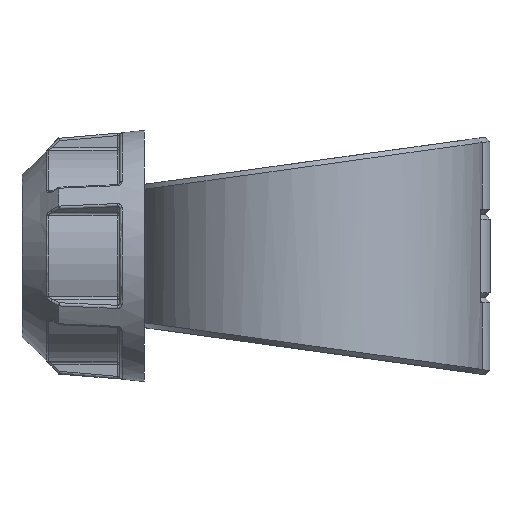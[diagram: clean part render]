
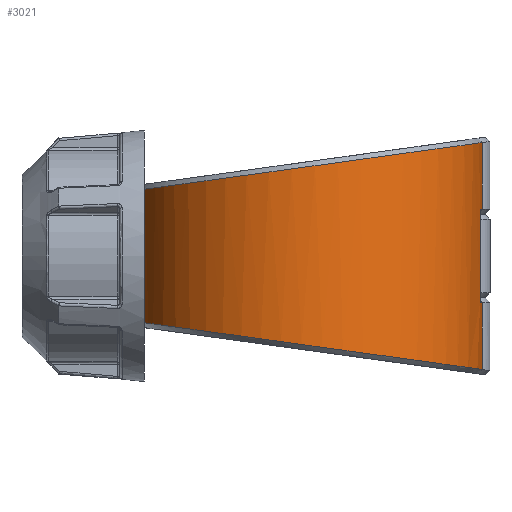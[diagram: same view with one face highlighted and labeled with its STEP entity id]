
A CAD part, left-side view. The second image highlights one B-rep face of the part: STEP entity #3021.
In plain terms, the highlighted cylindrical face has radius 70.5 mm (diameter 141 mm), a partial arc.
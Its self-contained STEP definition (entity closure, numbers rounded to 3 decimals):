
#212=FACE_OUTER_BOUND('',#416,.T.);
#416=EDGE_LOOP('',(#2055,#2056,#2057,#2058,#2059,#2060,#2061,#2062,#2063,
#2064,#2065,#2066));
#623=CIRCLE('',#3251,70.5);
#626=CIRCLE('',#3256,70.5);
#805=B_SPLINE_CURVE_WITH_KNOTS('',3,(#4518,#4519,#4520,#4521),
 .UNSPECIFIED.,.F.,.F.,(4,4),(-0.002,0.),.UNSPECIFIED.);
#806=B_SPLINE_CURVE_WITH_KNOTS('',3,(#4523,#4524,#4525,#4526),
 .UNSPECIFIED.,.F.,.F.,(4,4),(-3.043,-3.043),
 .UNSPECIFIED.);
#807=B_SPLINE_CURVE_WITH_KNOTS('',3,(#4527,#4528,#4529,#4530,#4531,#4532,
#4533,#4534,#4535,#4536),.UNSPECIFIED.,.F.,.F.,(4,1,1,1,1,1,1,4),(0.316,
0.619,1.025,1.431,1.837,2.243,
2.65,3.043),.UNSPECIFIED.);
#808=B_SPLINE_CURVE_WITH_KNOTS('',3,(#4538,#4539,#4540,#4541,#4542,#4543,
#4544,#4545,#4546,#4547),.UNSPECIFIED.,.F.,.F.,(4,1,1,1,1,1,1,4),(-3.043,
-2.65,-2.243,-1.837,-1.431,
-1.025,-0.619,-0.316),.UNSPECIFIED.);
#809=B_SPLINE_CURVE_WITH_KNOTS('',3,(#4549,#4550,#4551,#4552),
 .UNSPECIFIED.,.F.,.F.,(4,4),(3.043,3.043),
 .UNSPECIFIED.);
#810=B_SPLINE_CURVE_WITH_KNOTS('',3,(#4554,#4555,#4556,#4557),
 .UNSPECIFIED.,.F.,.F.,(4,4),(-0.397,-0.395),
 .UNSPECIFIED.);
#972=LINE('',#4394,#1093);
#979=LINE('',#4452,#1100);
#985=LINE('',#4516,#1106);
#986=LINE('',#4558,#1107);
#1093=VECTOR('',#3575,10.);
#1100=VECTOR('',#3592,10.);
#1106=VECTOR('',#3638,10.);
#1107=VECTOR('',#3639,10.);
#1216=VERTEX_POINT('',#4376);
#1217=VERTEX_POINT('',#4393);
#1229=VERTEX_POINT('',#4446);
#1230=VERTEX_POINT('',#4451);
#1236=VERTEX_POINT('',#4472);
#1239=VERTEX_POINT('',#4493);
#1243=VERTEX_POINT('',#4515);
#1244=VERTEX_POINT('',#4517);
#1245=VERTEX_POINT('',#4522);
#1246=VERTEX_POINT('',#4537);
#1247=VERTEX_POINT('',#4548);
#1248=VERTEX_POINT('',#4553);
#1510=EDGE_CURVE('',#1216,#1217,#972,.T.);
#1524=EDGE_CURVE('',#1229,#1230,#979,.T.);
#1537=EDGE_CURVE('',#1236,#1229,#623,.T.);
#1542=EDGE_CURVE('',#1230,#1239,#626,.T.);
#1548=EDGE_CURVE('',#1243,#1236,#985,.T.);
#1549=EDGE_CURVE('',#1244,#1243,#805,.T.);
#1550=EDGE_CURVE('',#1244,#1245,#806,.T.);
#1551=EDGE_CURVE('',#1217,#1245,#807,.T.);
#1552=EDGE_CURVE('',#1246,#1216,#808,.T.);
#1553=EDGE_CURVE('',#1246,#1247,#809,.T.);
#1554=EDGE_CURVE('',#1248,#1247,#810,.T.);
#1555=EDGE_CURVE('',#1239,#1248,#986,.T.);
#2055=ORIENTED_EDGE('',*,*,#1542,.F.);
#2056=ORIENTED_EDGE('',*,*,#1524,.F.);
#2057=ORIENTED_EDGE('',*,*,#1537,.F.);
#2058=ORIENTED_EDGE('',*,*,#1548,.F.);
#2059=ORIENTED_EDGE('',*,*,#1549,.F.);
#2060=ORIENTED_EDGE('',*,*,#1550,.T.);
#2061=ORIENTED_EDGE('',*,*,#1551,.F.);
#2062=ORIENTED_EDGE('',*,*,#1510,.F.);
#2063=ORIENTED_EDGE('',*,*,#1552,.F.);
#2064=ORIENTED_EDGE('',*,*,#1553,.T.);
#2065=ORIENTED_EDGE('',*,*,#1554,.F.);
#2066=ORIENTED_EDGE('',*,*,#1555,.F.);
#2962=CYLINDRICAL_SURFACE('',#3261,70.5);
#3021=ADVANCED_FACE('',(#212),#2962,.T.);
#3251=AXIS2_PLACEMENT_3D('',#4488,#3614,#3615);
#3256=AXIS2_PLACEMENT_3D('',#4502,#3624,#3625);
#3261=AXIS2_PLACEMENT_3D('',#4514,#3636,#3637);
#3575=DIRECTION('',(0.,0.,1.));
#3592=DIRECTION('',(0.,0.,-1.));
#3614=DIRECTION('center_axis',(0.,0.,-1.));
#3615=DIRECTION('ref_axis',(0.312,-0.95,0.));
#3624=DIRECTION('center_axis',(0.,0.,1.));
#3625=DIRECTION('ref_axis',(0.312,-0.95,0.));
#3636=DIRECTION('center_axis',(0.,0.,1.));
#3637=DIRECTION('ref_axis',(-0.312,0.95,0.));
#3638=DIRECTION('',(0.,0.,-1.));
#3639=DIRECTION('',(0.,0.,-1.));
#4376=CARTESIAN_POINT('',(-22.014,66.975,-27.098));
#4393=CARTESIAN_POINT('',(-22.014,66.975,27.098));
#4394=CARTESIAN_POINT('',(-22.014,66.975,0.));
#4446=CARTESIAN_POINT('',(-12.822,-69.324,18.975));
#4451=CARTESIAN_POINT('',(-12.822,-69.324,-18.975));
#4452=CARTESIAN_POINT('',(-12.822,-69.324,0.));
#4472=CARTESIAN_POINT('',(-6.922,-70.159,18.975));
#4488=CARTESIAN_POINT('Origin',(0.,0.,18.975));
#4493=CARTESIAN_POINT('',(-6.922,-70.159,-18.975));
#4502=CARTESIAN_POINT('Origin',(0.,0.,-18.975));
#4514=CARTESIAN_POINT('Origin',(0.,0.,0.));
#4515=CARTESIAN_POINT('',(-6.922,-70.159,46.052));
#4516=CARTESIAN_POINT('',(-6.922,-70.159,0.));
#4517=CARTESIAN_POINT('',(-6.906,-70.161,46.063));
#4518=CARTESIAN_POINT('Ctrl Pts',(-6.906,-70.16,46.063));
#4519=CARTESIAN_POINT('Ctrl Pts',(-6.911,-70.16,46.059));
#4520=CARTESIAN_POINT('Ctrl Pts',(-6.916,-70.159,46.055));
#4521=CARTESIAN_POINT('Ctrl Pts',(-6.922,-70.159,46.052));
#4522=CARTESIAN_POINT('',(-6.922,-70.159,46.063));
#4523=CARTESIAN_POINT('Ctrl Pts',(-6.906,-70.161,46.063));
#4524=CARTESIAN_POINT('Ctrl Pts',(-6.912,-70.16,46.063));
#4525=CARTESIAN_POINT('Ctrl Pts',(-6.917,-70.16,46.063));
#4526=CARTESIAN_POINT('Ctrl Pts',(-6.922,-70.159,46.063));
#4527=CARTESIAN_POINT('Ctrl Pts',(-22.013,66.972,27.099));
#4528=CARTESIAN_POINT('Ctrl Pts',(-28.791,64.74,27.406));
#4529=CARTESIAN_POINT('Ctrl Pts',(-43.875,57.107,28.458));
#4530=CARTESIAN_POINT('Ctrl Pts',(-62.08,37.41,31.174));
#4531=CARTESIAN_POINT('Ctrl Pts',(-71.8,9.802,34.986));
#4532=CARTESIAN_POINT('Ctrl Pts',(-69.835,-19.355,39.019));
#4533=CARTESIAN_POINT('Ctrl Pts',(-56.53,-45.322,42.616));
#4534=CARTESIAN_POINT('Ctrl Pts',(-34.343,-63.73,45.17));
#4535=CARTESIAN_POINT('Ctrl Pts',(-16.083,-69.254,45.937));
#4536=CARTESIAN_POINT('Ctrl Pts',(-6.922,-70.159,46.063));
#4537=CARTESIAN_POINT('',(-6.922,-70.159,-46.063));
#4538=CARTESIAN_POINT('Ctrl Pts',(-6.922,-70.159,-46.063));
#4539=CARTESIAN_POINT('Ctrl Pts',(-16.083,-69.254,-45.937));
#4540=CARTESIAN_POINT('Ctrl Pts',(-34.339,-63.727,-45.17));
#4541=CARTESIAN_POINT('Ctrl Pts',(-56.536,-45.326,-42.617));
#4542=CARTESIAN_POINT('Ctrl Pts',(-69.827,-19.353,-39.019));
#4543=CARTESIAN_POINT('Ctrl Pts',(-71.808,9.802,-34.986));
#4544=CARTESIAN_POINT('Ctrl Pts',(-62.072,37.407,-31.174));
#4545=CARTESIAN_POINT('Ctrl Pts',(-43.878,57.11,-28.457));
#4546=CARTESIAN_POINT('Ctrl Pts',(-28.792,64.741,-27.406));
#4547=CARTESIAN_POINT('Ctrl Pts',(-22.013,66.973,-27.098));
#4548=CARTESIAN_POINT('',(-6.906,-70.161,-46.063));
#4549=CARTESIAN_POINT('Ctrl Pts',(-6.922,-70.159,-46.063));
#4550=CARTESIAN_POINT('Ctrl Pts',(-6.917,-70.16,-46.063));
#4551=CARTESIAN_POINT('Ctrl Pts',(-6.912,-70.16,-46.063));
#4552=CARTESIAN_POINT('Ctrl Pts',(-6.906,-70.161,-46.063));
#4553=CARTESIAN_POINT('',(-6.922,-70.159,-46.052));
#4554=CARTESIAN_POINT('Ctrl Pts',(-6.922,-70.159,-46.052));
#4555=CARTESIAN_POINT('Ctrl Pts',(-6.916,-70.159,-46.055));
#4556=CARTESIAN_POINT('Ctrl Pts',(-6.911,-70.16,-46.059));
#4557=CARTESIAN_POINT('Ctrl Pts',(-6.906,-70.16,-46.063));
#4558=CARTESIAN_POINT('',(-6.922,-70.159,0.));
